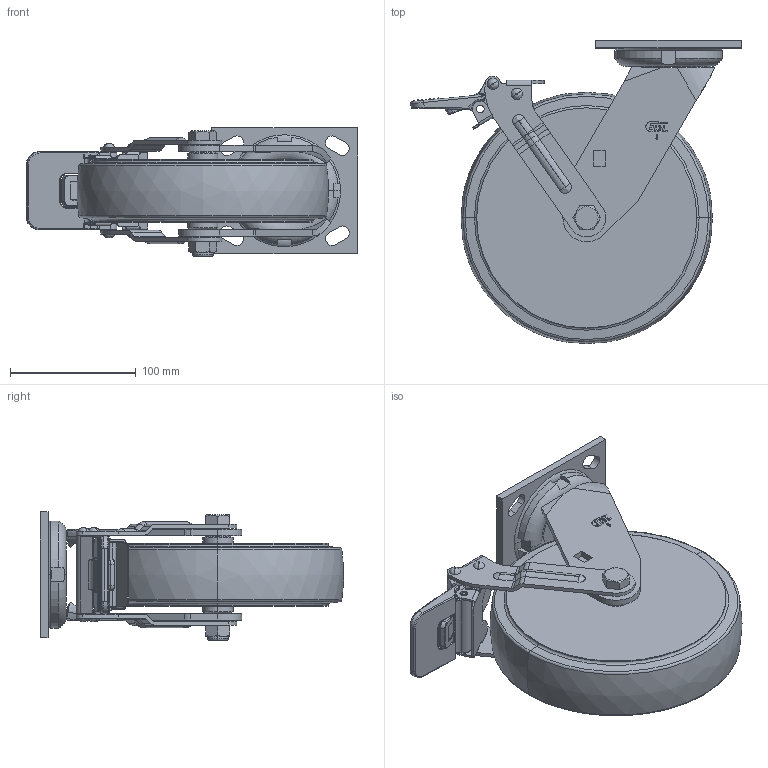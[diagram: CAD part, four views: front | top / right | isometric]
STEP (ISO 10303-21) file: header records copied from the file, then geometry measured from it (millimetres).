
FILE_DESCRIPTION((''),'2;1');
FILE_NAME('73128F-738-86_ASM','2020-12-01T',('lenovo'),(''),'PRO/ENGINEER BY PARAMETRIC TECHNOLOGY CORPORATION, 2010280','PRO/ENGINEER BY PARAMETRIC TECHNOLOGY CORPORATION, 2010280','');
FILE_SCHEMA(('CONFIG_CONTROL_DESIGN'));
Length unit declared in the file: millimetre
Products named in the file (13): 7310-201; 7310-211; 7318-353; 7318-311_ASM; 7318-535; 700-64OFF; 700E-13_; 700-64ON; 738FF_ASM; 738-86; 7010-33-1; 7010-34; 73128F-738-86_ASM
Assembly tree (12 placements, depth 3):
  73128F-738-86_ASM
    7310-201
    7318-311_ASM
      7310-211
      7318-353
    738FF_ASM
      7318-535
      700-64OFF
      700E-13_
      700-64ON
    738-86
    7010-33-1
    7010-34
Bounding box: 263.11 x 240.83 x 102 mm (x, y, z)
Volume: 1814475.2 mm3; surface area: 222974.8 mm2
Topology: 11 solids, 11 shells, 786 faces, 1928 edges, 1182 vertices
Faces by surface type: plane 344, cylinder 248, torus 76, bspline 74, cone 38, sphere 6
Entity records: 26909 total; most frequent: CARTESIAN_POINT 8218, DIRECTION 3862, ORIENTED_EDGE 3848, EDGE_CURVE 1924, AXIS2_PLACEMENT_3D 1390, VERTEX_POINT 1182, VECTOR 1082, LINE 1082
